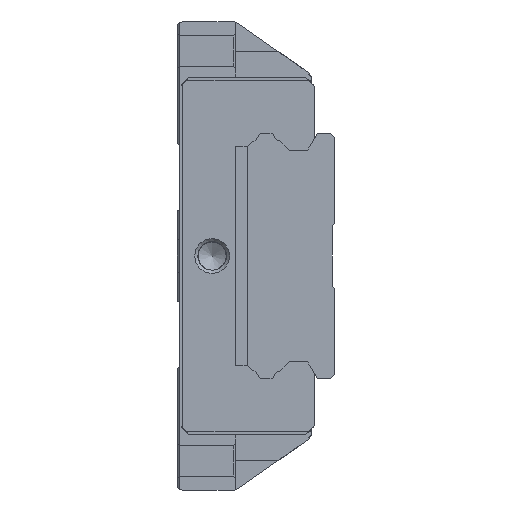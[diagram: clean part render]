
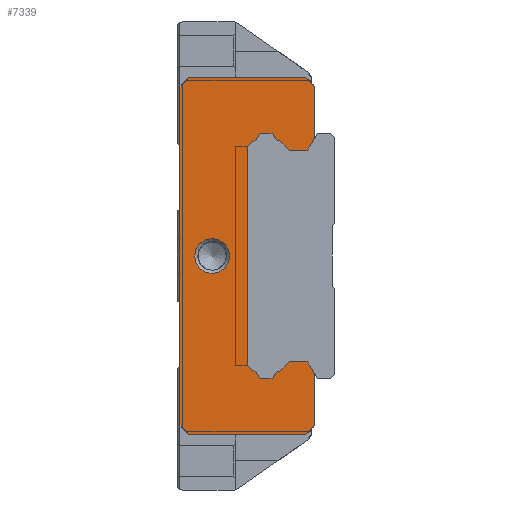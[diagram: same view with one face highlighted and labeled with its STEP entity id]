
A CAD part, left-side view. The second image highlights one B-rep face of the part: STEP entity #7339.
In plain terms, the highlighted planar face has unit normal (-1, 0, 0).
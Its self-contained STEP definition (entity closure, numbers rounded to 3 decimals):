
#515=CIRCLE('',#8283,3.);
#516=CIRCLE('',#8284,1.43);
#517=CIRCLE('',#8285,1.43);
#518=CIRCLE('',#8286,1.43);
#519=CIRCLE('',#8287,1.43);
#2015=ORIENTED_EDGE('',*,*,#3167,.T.);
#2016=ORIENTED_EDGE('',*,*,#3168,.T.);
#2017=ORIENTED_EDGE('',*,*,#3163,.F.);
#2018=ORIENTED_EDGE('',*,*,#3082,.F.);
#2019=ORIENTED_EDGE('',*,*,#3143,.F.);
#2020=ORIENTED_EDGE('',*,*,#3138,.F.);
#2021=ORIENTED_EDGE('',*,*,#3158,.F.);
#2022=ORIENTED_EDGE('',*,*,#3125,.F.);
#2023=ORIENTED_EDGE('',*,*,#3145,.F.);
#2024=ORIENTED_EDGE('',*,*,#3092,.F.);
#2025=ORIENTED_EDGE('',*,*,#3165,.F.);
#2026=ORIENTED_EDGE('',*,*,#3169,.T.);
#2027=ORIENTED_EDGE('',*,*,#3170,.T.);
#2028=ORIENTED_EDGE('',*,*,#3171,.T.);
#2029=ORIENTED_EDGE('',*,*,#3172,.F.);
#2030=ORIENTED_EDGE('',*,*,#3173,.T.);
#2031=ORIENTED_EDGE('',*,*,#3174,.T.);
#2032=ORIENTED_EDGE('',*,*,#3175,.T.);
#2033=ORIENTED_EDGE('',*,*,#3176,.F.);
#2034=ORIENTED_EDGE('',*,*,#3177,.T.);
#2035=ORIENTED_EDGE('',*,*,#3150,.T.);
#2036=ORIENTED_EDGE('',*,*,#3178,.T.);
#2037=ORIENTED_EDGE('',*,*,#3179,.F.);
#2038=ORIENTED_EDGE('',*,*,#3180,.T.);
#2039=ORIENTED_EDGE('',*,*,#3181,.T.);
#2040=ORIENTED_EDGE('',*,*,#3182,.T.);
#2041=ORIENTED_EDGE('',*,*,#3183,.F.);
#2042=ORIENTED_EDGE('',*,*,#3184,.T.);
#2043=ORIENTED_EDGE('',*,*,#3185,.T.);
#3082=EDGE_CURVE('',#3880,#3881,#4196,.T.);
#3092=EDGE_CURVE('',#3890,#3891,#4206,.T.);
#3125=EDGE_CURVE('',#3913,#3914,#4239,.T.);
#3138=EDGE_CURVE('',#3924,#3925,#4252,.T.);
#3143=EDGE_CURVE('',#3925,#3880,#4257,.T.);
#3145=EDGE_CURVE('',#3891,#3913,#4259,.T.);
#3150=EDGE_CURVE('',#3928,#3930,#4264,.T.);
#3158=EDGE_CURVE('',#3914,#3924,#4270,.T.);
#3163=EDGE_CURVE('',#3881,#3934,#4275,.T.);
#3165=EDGE_CURVE('',#3935,#3890,#4277,.T.);
#3167=EDGE_CURVE('',#3937,#3937,#515,.T.);
#3168=EDGE_CURVE('',#3938,#3934,#4279,.T.);
#3169=EDGE_CURVE('',#3935,#3939,#4280,.T.);
#3170=EDGE_CURVE('',#3939,#3940,#4281,.T.);
#3171=EDGE_CURVE('',#3940,#3941,#4282,.T.);
#3172=EDGE_CURVE('',#3942,#3941,#516,.T.);
#3173=EDGE_CURVE('',#3942,#3943,#4283,.T.);
#3174=EDGE_CURVE('',#3943,#3944,#4284,.T.);
#3175=EDGE_CURVE('',#3944,#3945,#4285,.T.);
#3176=EDGE_CURVE('',#3946,#3945,#517,.T.);
#3177=EDGE_CURVE('',#3946,#3928,#4286,.T.);
#3178=EDGE_CURVE('',#3930,#3947,#4287,.T.);
#3179=EDGE_CURVE('',#3948,#3947,#518,.T.);
#3180=EDGE_CURVE('',#3948,#3949,#4288,.T.);
#3181=EDGE_CURVE('',#3949,#3950,#4289,.T.);
#3182=EDGE_CURVE('',#3950,#3951,#4290,.T.);
#3183=EDGE_CURVE('',#3952,#3951,#519,.T.);
#3184=EDGE_CURVE('',#3952,#3953,#4291,.T.);
#3185=EDGE_CURVE('',#3953,#3938,#4292,.T.);
#3880=VERTEX_POINT('',#12202);
#3881=VERTEX_POINT('',#12204);
#3890=VERTEX_POINT('',#12223);
#3891=VERTEX_POINT('',#12225);
#3913=VERTEX_POINT('',#12286);
#3914=VERTEX_POINT('',#12288);
#3924=VERTEX_POINT('',#12311);
#3925=VERTEX_POINT('',#12313);
#3928=VERTEX_POINT('',#12330);
#3930=VERTEX_POINT('',#12334);
#3934=VERTEX_POINT('',#12357);
#3935=VERTEX_POINT('',#12362);
#3937=VERTEX_POINT('',#12368);
#3938=VERTEX_POINT('',#12370);
#3939=VERTEX_POINT('',#12372);
#3940=VERTEX_POINT('',#12374);
#3941=VERTEX_POINT('',#12376);
#3942=VERTEX_POINT('',#12378);
#3943=VERTEX_POINT('',#12380);
#3944=VERTEX_POINT('',#12382);
#3945=VERTEX_POINT('',#12384);
#3946=VERTEX_POINT('',#12386);
#3947=VERTEX_POINT('',#12389);
#3948=VERTEX_POINT('',#12391);
#3949=VERTEX_POINT('',#12393);
#3950=VERTEX_POINT('',#12395);
#3951=VERTEX_POINT('',#12397);
#3952=VERTEX_POINT('',#12399);
#3953=VERTEX_POINT('',#12401);
#4196=LINE('',#12203,#4538);
#4206=LINE('',#12224,#4548);
#4239=LINE('',#12287,#4581);
#4252=LINE('',#12312,#4594);
#4257=LINE('',#12321,#4599);
#4259=LINE('',#12324,#4601);
#4264=LINE('',#12335,#4606);
#4270=LINE('',#12350,#4612);
#4275=LINE('',#12359,#4617);
#4277=LINE('',#12364,#4619);
#4279=LINE('',#12369,#4621);
#4280=LINE('',#12371,#4622);
#4281=LINE('',#12373,#4623);
#4282=LINE('',#12375,#4624);
#4283=LINE('',#12379,#4625);
#4284=LINE('',#12381,#4626);
#4285=LINE('',#12383,#4627);
#4286=LINE('',#12387,#4628);
#4287=LINE('',#12388,#4629);
#4288=LINE('',#12392,#4630);
#4289=LINE('',#12394,#4631);
#4290=LINE('',#12396,#4632);
#4291=LINE('',#12400,#4633);
#4292=LINE('',#12402,#4634);
#4538=VECTOR('',#10173,1000.);
#4548=VECTOR('',#10185,1000.);
#4581=VECTOR('',#10232,1000.);
#4594=VECTOR('',#10247,1000.);
#4599=VECTOR('',#10256,1000.);
#4601=VECTOR('',#10260,1000.);
#4606=VECTOR('',#10269,1000.);
#4612=VECTOR('',#10289,1000.);
#4617=VECTOR('',#10298,1000.);
#4619=VECTOR('',#10302,1000.);
#4621=VECTOR('',#10308,1000.);
#4622=VECTOR('',#10309,1000.);
#4623=VECTOR('',#10310,1000.);
#4624=VECTOR('',#10311,1000.);
#4625=VECTOR('',#10314,1000.);
#4626=VECTOR('',#10315,1000.);
#4627=VECTOR('',#10316,1000.);
#4628=VECTOR('',#10319,1000.);
#4629=VECTOR('',#10320,1000.);
#4630=VECTOR('',#10323,1000.);
#4631=VECTOR('',#10324,1000.);
#4632=VECTOR('',#10325,1000.);
#4633=VECTOR('',#10328,1000.);
#4634=VECTOR('',#10329,1000.);
#5615=EDGE_LOOP('',(#2015));
#5616=EDGE_LOOP('',(#2016,#2017,#2018,#2019,#2020,#2021,#2022,#2023,#2024,
#2025,#2026,#2027,#2028,#2029,#2030,#2031,#2032,#2033,#2034,#2035,#2036,
#2037,#2038,#2039,#2040,#2041,#2042,#2043));
#6621=FACE_BOUND('',#5615,.T.);
#6622=FACE_BOUND('',#5616,.T.);
#6907=PLANE('',#8282);
#7339=ADVANCED_FACE('',(#6621,#6622),#6907,.F.);
#8282=AXIS2_PLACEMENT_3D('',#12366,#10304,#10305);
#8283=AXIS2_PLACEMENT_3D('',#12367,#10306,#10307);
#8284=AXIS2_PLACEMENT_3D('',#12377,#10312,#10313);
#8285=AXIS2_PLACEMENT_3D('',#12385,#10317,#10318);
#8286=AXIS2_PLACEMENT_3D('',#12390,#10321,#10322);
#8287=AXIS2_PLACEMENT_3D('',#12398,#10326,#10327);
#10173=DIRECTION('',(0.,-0.707,-0.707));
#10185=DIRECTION('',(0.,0.707,-0.707));
#10232=DIRECTION('',(0.,0.707,0.707));
#10247=DIRECTION('',(0.,-0.707,0.707));
#10256=DIRECTION('',(0.,-1.,0.));
#10260=DIRECTION('',(0.,1.,0.));
#10269=DIRECTION('',(0.,0.,1.));
#10289=DIRECTION('',(0.,0.,1.));
#10298=DIRECTION('',(0.,0.,-1.));
#10302=DIRECTION('',(0.,0.,-1.));
#10304=DIRECTION('',(1.,0.,0.));
#10305=DIRECTION('',(0.,0.,-1.));
#10306=DIRECTION('',(1.,0.,0.));
#10307=DIRECTION('',(0.,0.,-1.));
#10308=DIRECTION('',(0.,-0.5,0.866));
#10309=DIRECTION('',(0.,0.5,0.866));
#10310=DIRECTION('',(0.,1.,0.));
#10311=DIRECTION('',(0.,0.707,-0.707));
#10312=DIRECTION('',(1.,0.,0.));
#10313=DIRECTION('',(0.,0.,-1.));
#10314=DIRECTION('',(0.,0.707,-0.707));
#10315=DIRECTION('',(0.,1.,0.));
#10316=DIRECTION('',(0.,0.487,0.873));
#10317=DIRECTION('',(1.,0.,0.));
#10318=DIRECTION('',(0.,0.,-1.));
#10319=DIRECTION('',(0.,0.789,0.614));
#10320=DIRECTION('',(0.,-0.789,0.614));
#10321=DIRECTION('',(1.,0.,0.));
#10322=DIRECTION('',(0.,0.,-1.));
#10323=DIRECTION('',(0.,-0.487,0.873));
#10324=DIRECTION('',(0.,-1.,0.));
#10325=DIRECTION('',(0.,-0.707,-0.707));
#10326=DIRECTION('',(1.,0.,0.));
#10327=DIRECTION('',(0.,0.,-1.));
#10328=DIRECTION('',(0.,-0.707,-0.707));
#10329=DIRECTION('',(0.,-1.,0.));
#12202=CARTESIAN_POINT('',(-36.4,1.5,30.5));
#12203=CARTESIAN_POINT('',(-36.4,1.5,30.5));
#12204=CARTESIAN_POINT('',(-36.4,0.,29.));
#12223=CARTESIAN_POINT('',(-36.4,0.,-29.));
#12224=CARTESIAN_POINT('',(-36.4,0.,-29.));
#12225=CARTESIAN_POINT('',(-36.4,1.5,-30.5));
#12286=CARTESIAN_POINT('',(-36.4,21.5,-30.5));
#12287=CARTESIAN_POINT('',(-36.4,21.5,-30.5));
#12288=CARTESIAN_POINT('',(-36.4,23.,-29.));
#12311=CARTESIAN_POINT('',(-36.4,23.,29.));
#12312=CARTESIAN_POINT('',(-36.4,23.,29.));
#12313=CARTESIAN_POINT('',(-36.4,21.5,30.5));
#12321=CARTESIAN_POINT('',(-36.4,21.5,30.5));
#12324=CARTESIAN_POINT('',(-36.4,1.5,-30.5));
#12330=CARTESIAN_POINT('',(-36.4,11.5,-18.76));
#12334=CARTESIAN_POINT('',(-36.4,11.5,18.76));
#12335=CARTESIAN_POINT('',(-36.4,11.5,-18.76));
#12350=CARTESIAN_POINT('',(-36.4,23.,-29.));
#12357=CARTESIAN_POINT('',(-36.4,0.,20.099));
#12359=CARTESIAN_POINT('',(-36.4,0.,29.));
#12362=CARTESIAN_POINT('',(-36.4,0.,-20.099));
#12364=CARTESIAN_POINT('',(-36.4,0.,29.));
#12366=CARTESIAN_POINT('',(-36.4,0.,0.));
#12367=CARTESIAN_POINT('',(-36.4,17.5,0.));
#12368=CARTESIAN_POINT('',(-36.4,17.5,-3.));
#12369=CARTESIAN_POINT('',(-36.4,1.154,18.1));
#12370=CARTESIAN_POINT('',(-36.4,1.154,18.1));
#12371=CARTESIAN_POINT('',(-36.4,-0.52,-21.));
#12372=CARTESIAN_POINT('',(-36.4,1.154,-18.1));
#12373=CARTESIAN_POINT('',(-36.4,1.154,-18.1));
#12374=CARTESIAN_POINT('',(-36.4,4.34,-18.1));
#12375=CARTESIAN_POINT('',(-36.4,4.34,-18.1));
#12376=CARTESIAN_POINT('',(-36.4,5.908,-19.668));
#12377=CARTESIAN_POINT('',(-36.4,5.645,-21.074));
#12378=CARTESIAN_POINT('',(-36.4,7.051,-20.811));
#12379=CARTESIAN_POINT('',(-36.4,7.051,-20.811));
#12380=CARTESIAN_POINT('',(-36.4,7.24,-21.));
#12381=CARTESIAN_POINT('',(-36.4,7.24,-21.));
#12382=CARTESIAN_POINT('',(-36.4,9.26,-21.));
#12383=CARTESIAN_POINT('',(-36.4,9.26,-21.));
#12384=CARTESIAN_POINT('',(-36.4,9.607,-20.378));
#12385=CARTESIAN_POINT('',(-36.4,10.856,-21.074));
#12386=CARTESIAN_POINT('',(-36.4,9.977,-19.946));
#12387=CARTESIAN_POINT('',(-36.4,9.977,-19.946));
#12388=CARTESIAN_POINT('',(-36.4,11.5,18.76));
#12389=CARTESIAN_POINT('',(-36.4,9.977,19.946));
#12390=CARTESIAN_POINT('',(-36.4,10.856,21.074));
#12391=CARTESIAN_POINT('',(-36.4,9.607,20.378));
#12392=CARTESIAN_POINT('',(-36.4,9.607,20.378));
#12393=CARTESIAN_POINT('',(-36.4,9.26,21.));
#12394=CARTESIAN_POINT('',(-36.4,9.26,21.));
#12395=CARTESIAN_POINT('',(-36.4,7.24,21.));
#12396=CARTESIAN_POINT('',(-36.4,7.24,21.));
#12397=CARTESIAN_POINT('',(-36.4,7.051,20.811));
#12398=CARTESIAN_POINT('',(-36.4,5.645,21.074));
#12399=CARTESIAN_POINT('',(-36.4,5.908,19.668));
#12400=CARTESIAN_POINT('',(-36.4,5.908,19.668));
#12401=CARTESIAN_POINT('',(-36.4,4.34,18.1));
#12402=CARTESIAN_POINT('',(-36.4,4.34,18.1));
